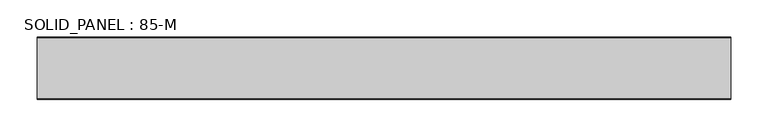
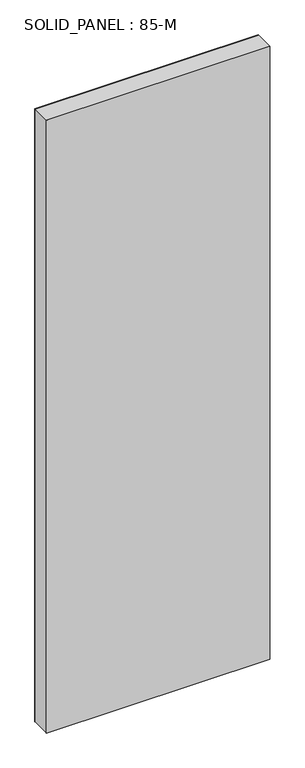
"""IFC4 building model written with IfcOpenShell, lengths in millimetres: plate geometry, SOLID_PANEL : 85-M."""

from ifc_helpers import new_model, si_unit, origin, origin_with_axes, place, context, project, spatial, polyline, outline, extrude, source, transform, mapped, element, save


def solid_panel_85_m_2494bd28(model_context):
    return source(origin(), model_context, "Body", "SweptSolid", [
        extrude(outline(polyline([(463.25, -40.5), (-463.25, -40.5), (-463.25, 40.5), (463.25, 40.5), (463.25, -40.5)])), origin_with_axes(), (0.0, 0.0, 1.0), 2685.0),
        extrude(outline(polyline([(463.25, -41.5), (-463.25, -41.5), (-463.25, -40.5), (463.25, -40.5), (463.25, -41.5)])), origin_with_axes(), (0.0, 0.0, 1.0), 2685.0),
        extrude(outline(polyline([(463.25, 40.5), (-463.25, 40.5), (-463.25, 41.5), (463.25, 41.5), (463.25, 40.5)])), origin_with_axes(), (0.0, 0.0, 1.0), 2685.0),
    ])


if __name__ == "__main__":
    model = new_model("IFC4")
    model_context = context("Model", 3, world=origin())
    ifc_project = project(units=[si_unit("LENGTHUNIT", "METRE", prefix="MILLI")], contexts=[model_context])
    site = spatial("IfcSite", under=ifc_project)
    building = spatial("IfcBuilding", under=site)
    placement = place(None, origin())
    solid_panel_85_m_shape = solid_panel_85_m_2494bd28(model_context)
    element("IfcPlate", 1, ObjectType="SOLID_PANEL : 85-M", at=placement, inside=building, context=model_context, shape_type="MappedRepresentation", body=[
        mapped(solid_panel_85_m_shape, transform((0.0, 0.0, 0.0), x_axis=(1.0, 0.0, 0.0), y_axis=(0.0, 1.0, 0.0), z_axis=(0.0, 0.0, 1.0))),
    ])
    save(model, "model.ifc")
